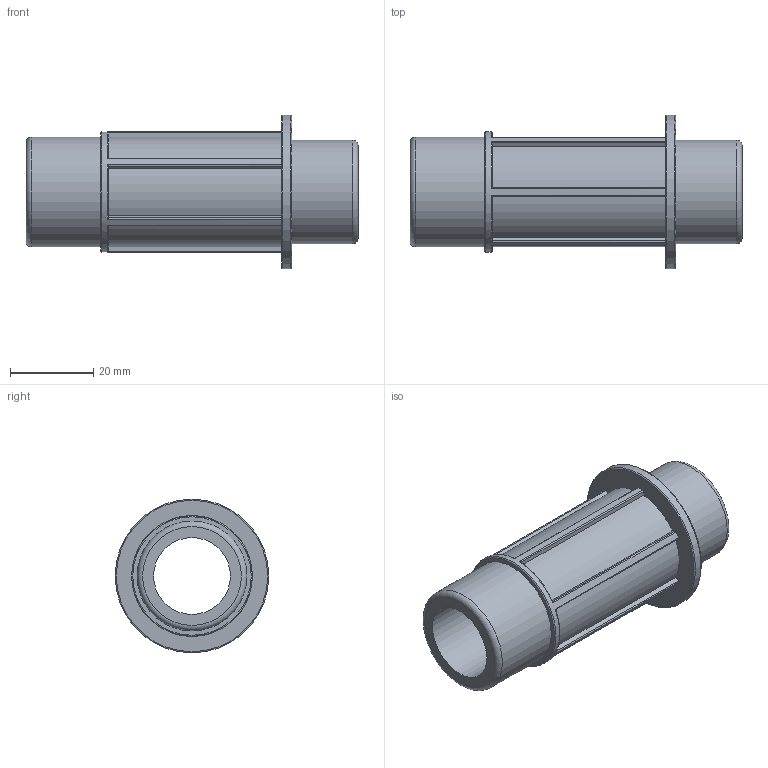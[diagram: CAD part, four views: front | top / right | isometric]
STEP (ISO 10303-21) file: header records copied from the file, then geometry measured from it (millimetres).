
FILE_DESCRIPTION(/* description */ ('PLASSON THREADED MALE ADAPTOR 25-3/4"'),/* implementation_level */ '2;1');
FILE_NAME(/* name */ 'C:\Dropbox\KIMPROJECTS-Inventor\99-16-3568-Processing\Silver+MF ISRAEL\078901\078901025007.ipt.stp',/* time_stamp */ '2018-04-09T13:01:52+03:00',/* author */ ('KIM'),/* organization */ (''),/* preprocessor_version */ 'ST-DEVELOPER v15.6',/* originating_system */ 'Autodesk Inventor 2015',/* authorisation */ '');
FILE_SCHEMA (('AUTOMOTIVE_DESIGN { 1 0 10303 214 3 1 1 }'));
Length unit declared in the file: millimetre
Products named in the file (1): 078901025007
Bounding box: 80 x 37 x 37 mm (x, y, z)
Volume: 23572 mm3; surface area: 13605.8 mm2
Topology: 1 solids, 1 shells, 57 faces, 151 edges, 99 vertices
Faces by surface type: cylinder 23, plane 23, torus 11
Full cylindrical faces by diameter (mm): 18.509 x1, 25 x1, 26.441 x1, 29.085 x1, 37 x1
Entity records: 1894 total; most frequent: CARTESIAN_POINT 488, DIRECTION 288, ORIENTED_EDGE 280, EDGE_CURVE 140, AXIS2_PLACEMENT_3D 114, VERTEX_POINT 98, EDGE_LOOP 72, LINE 60
